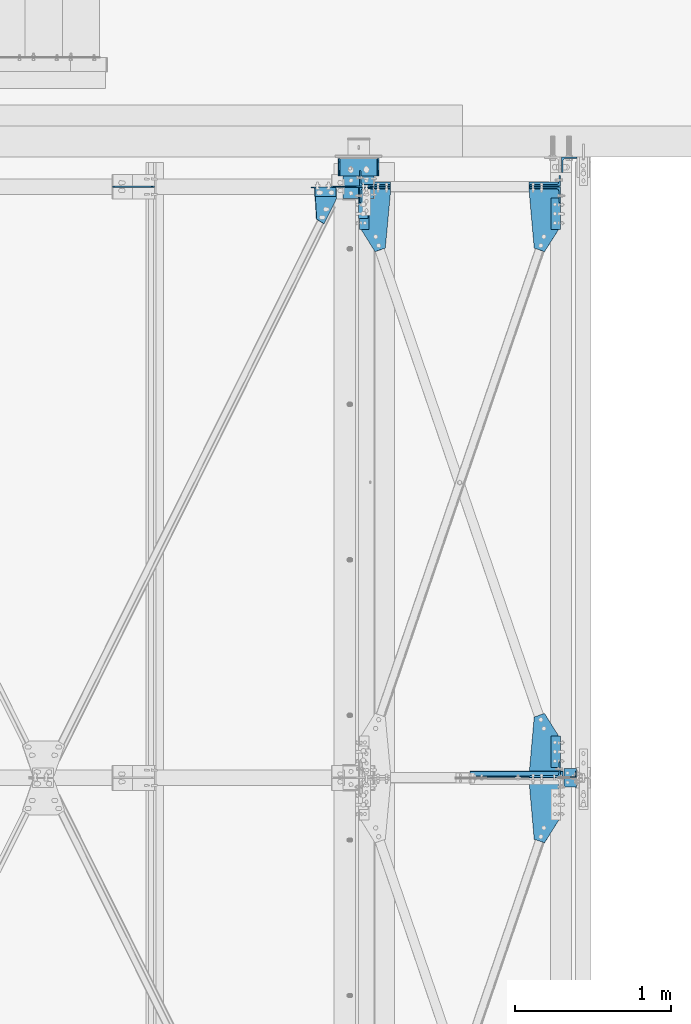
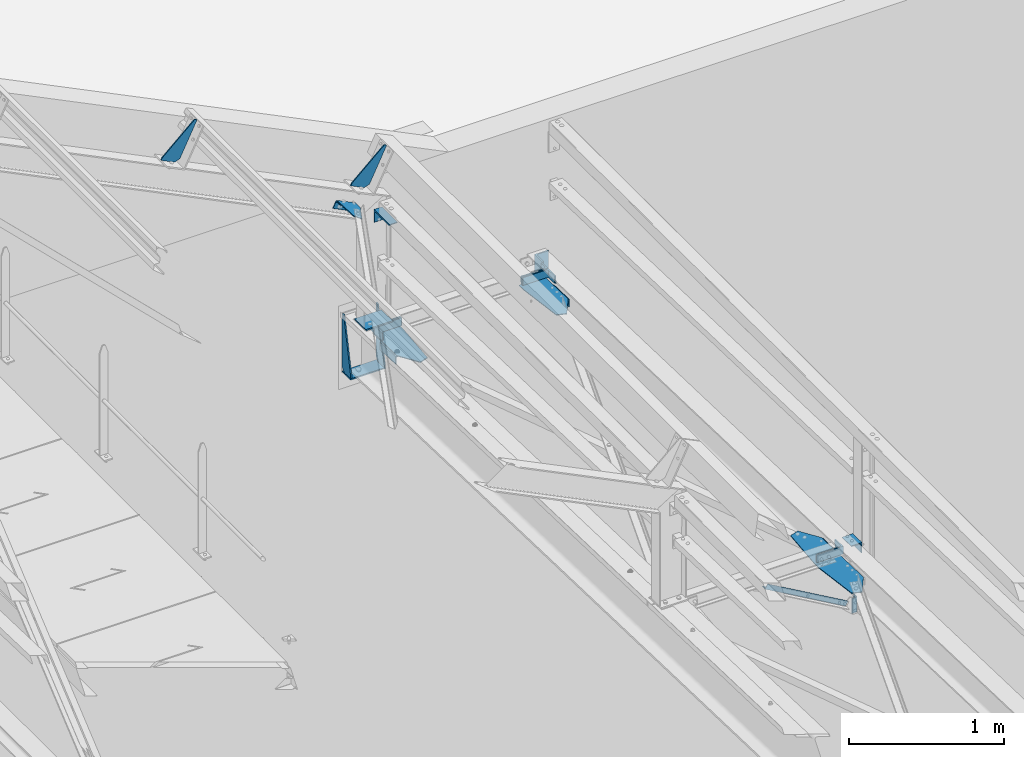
# One storey, part 113 of 362: 17 beams, 7 members, 22 elements without a shape of their own.
"""IFC2X3 building model written with IfcOpenShell, lengths in millimetres."""

from ifc_helpers import new_model, si_unit, frame, origin_with_axes, origin_2d_with_axis, place, context, subcontext, project, spatial, polyline, rectangle, l_section, outline, extrude, clip, halfspace, material, type_object, element, aggregate, save


model = new_model("IFC2X3")

# Units and contexts
model_context = context("Model", 3, precision=1e-05, world=origin_with_axes())
body_context = subcontext(model_context, "Body", "Model", "MODEL_VIEW")
ifc_project = project(units=[si_unit("LENGTHUNIT", "METRE", prefix="MILLI"), si_unit("AREAUNIT", "SQUARE_METRE"), si_unit("VOLUMEUNIT", "CUBIC_METRE"), si_unit("MASSUNIT", "GRAM", prefix="KILO"), si_unit("TIMEUNIT", "SECOND"), si_unit("PLANEANGLEUNIT", "RADIAN"), si_unit("SOLIDANGLEUNIT", "STERADIAN"), si_unit("THERMODYNAMICTEMPERATUREUNIT", "DEGREE_CELSIUS"), si_unit("LUMINOUSINTENSITYUNIT", "LUMEN")], contexts=[model_context])

# Site, building, storey
site_placement = place(None, origin_with_axes())
site = spatial("IfcSite", under=ifc_project, at=site_placement, Name="Undefined", CompositionType="ELEMENT")
building_placement = place(site_placement, origin_with_axes())
building = spatial("IfcBuilding", under=site, at=building_placement, Name="Undefined", CompositionType="ELEMENT")
storey_placement = place(building_placement, origin_with_axes())
storey = spatial("IfcBuildingStorey", under=building, at=storey_placement, Name="Undefined", CompositionType="ELEMENT", Elevation=0.0)

# Assembly, beam
assembly_1_placement = place(storey_placement, origin_with_axes())
assembly_1 = element("IfcElementAssembly", 1, at=assembly_1_placement, inside=storey, AssemblyPlace="NOTDEFINED", PredefinedType="NOTDEFINED")
ifc_material = material(Name="Undefined/S235-E24")
beam_type_1 = type_object("IfcBeamType", Name="L60*6", PredefinedType="NOTDEFINED")
beam_1_placement = place(assembly_1_placement, frame((39596.4999999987, 11466.9500236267, 7533.55960076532), z_axis=(-1.05403257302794e-09, -0.0314112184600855, -0.999506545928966), x_axis=(3.14103090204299e-11, 0.999506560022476, -0.0314107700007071)))
beam_1 = element("IfcBeam", 2, at=beam_1_placement, type_object=beam_type_1, material=ifc_material, Name="ATTACHE", ObjectType="L60*6", context=body_context, shape_type="SweptSolid", body=[
    extrude(l_section(Depth=60.0, Width=60.0, Thickness=6.0, FilletRadius=8.0, EdgeRadius=4.0, at=origin_2d_with_axis()), frame((200.0, 0.0, 0.0), z_axis=(-1.0, 0.0, 0.0), x_axis=(0.0, -1.0, 0.0)), (0.0, 0.0, 1.0), 200.0),
])
aggregate(assembly_1, [beam_1])

assembly_2_placement = place(storey_placement, origin_with_axes())
assembly_2 = element("IfcElementAssembly", 3, at=assembly_2_placement, inside=storey, AssemblyPlace="NOTDEFINED", PredefinedType="NOTDEFINED")
beam_2_placement = place(assembly_2_placement, frame((39596.4999999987, 14925.2331446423, 7424.8786388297), z_axis=(-1.05403257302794e-09, -0.0314112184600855, -0.999506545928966), x_axis=(3.14103090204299e-11, 0.999506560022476, -0.0314107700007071)))
beam_2 = element("IfcBeam", 4, at=beam_2_placement, type_object=beam_type_1, material=ifc_material, Name="ATTACHE", ObjectType="L60*6", context=body_context, shape_type="SweptSolid", body=[
    extrude(l_section(Depth=60.0, Width=60.0, Thickness=6.0, FilletRadius=8.0, EdgeRadius=4.0, at=origin_2d_with_axis()), frame((200.0, 0.0, 0.0), z_axis=(-1.0, 0.0, 0.0), x_axis=(0.0, -1.0, 0.0)), (0.0, 0.0, 1.0), 200.0),
])
aggregate(assembly_2, [beam_2])

assembly_3_placement = place(storey_placement, origin_with_axes())
assembly_3 = element("IfcElementAssembly", 5, at=assembly_3_placement, inside=storey, AssemblyPlace="NOTDEFINED", PredefinedType="NOTDEFINED")
beam_3_placement = place(assembly_3_placement, frame((38365.0000000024, 15125.1344555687, 7418.59645027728), z_axis=(-1.05403257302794e-09, -0.0314112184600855, -0.999506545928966), x_axis=(0.0, -0.999506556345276, 0.031410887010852)))
beam_3 = element("IfcBeam", 6, at=beam_3_placement, type_object=beam_type_1, material=ifc_material, Name="ATTACHE", ObjectType="L60*6", context=body_context, shape_type="SweptSolid", body=[
    extrude(l_section(Depth=60.0, Width=60.0, Thickness=6.0, FilletRadius=8.0, EdgeRadius=4.0, at=origin_2d_with_axis()), frame((200.0, 0.0, 0.0), z_axis=(-1.0, 0.0, 0.0), x_axis=(0.0, -1.0, 0.0)), (0.0, 0.0, 1.0), 200.0),
])
aggregate(assembly_3, [beam_3])

assembly_4_placement = place(storey_placement, origin_with_axes())
assembly_4 = element("IfcElementAssembly", 7, at=assembly_4_placement, inside=storey, Name="TRAVERSE SHED", AssemblyPlace="NOTDEFINED", PredefinedType="NOTDEFINED")
beam_type_2 = type_object("IfcBeamType", Name="PL10*200", PredefinedType="NOTDEFINED")
beam_4_placement = place(assembly_4_placement, frame((38330.0, 15274.8056218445, 7574.97237948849), z_axis=(-1.0, 0.0, 0.0), x_axis=(0.0, -0.999506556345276, 0.031410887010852)))
beam_4 = element("IfcBeam", 8, at=beam_4_placement, type_object=beam_type_2, material=ifc_material, Name="PLATINE", ObjectType="PL10*200", context=body_context, shape_type="SweptSolid", body=[
    extrude(rectangle(XDim=10.0, YDim=200.0, at=origin_2d_with_axis()), frame((150.0, 0.0, 0.0), z_axis=(-1.0, 0.0, 0.0), x_axis=(0.0, -1.0, 0.0)), (0.0, 0.0, 1.0), 150.0),
])
aggregate(assembly_4, [beam_4])

assembly_5_placement = place(storey_placement, origin_with_axes())
assembly_5 = element("IfcElementAssembly", 9, at=assembly_5_placement, inside=storey, AssemblyPlace="NOTDEFINED", PredefinedType="NOTDEFINED")
beam_type_3 = type_object("IfcBeamType", Name="L80*8", PredefinedType="NOTDEFINED")
beam_5_placement = place(assembly_5_placement, frame((39689.0, 11460.1274473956, 7639.62620400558), z_axis=(-1.0, 0.0, 0.0), x_axis=(0.0, -0.999506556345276, 0.031410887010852)))
beam_5 = element("IfcBeam", 10, at=beam_5_placement, type_object=beam_type_3, material=ifc_material, Name="ATTACHE", ObjectType="L80*8", context=body_context, shape_type="SweptSolid", body=[
    extrude(l_section(Depth=80.0, Width=80.0, Thickness=8.0, FilletRadius=10.0, EdgeRadius=5.0, at=origin_2d_with_axis()), frame((120.0, 0.0, 0.0), z_axis=(-1.0, 0.0, 0.0), x_axis=(0.0, -1.0, 0.0)), (0.0, 0.0, 1.0), 120.0),
])
aggregate(assembly_5, [beam_5])

assembly_6_placement = place(storey_placement, origin_with_axes())
assembly_6 = element("IfcElementAssembly", 11, at=assembly_6_placement, inside=storey, AssemblyPlace="NOTDEFINED", PredefinedType="NOTDEFINED")
beam_type_4 = type_object("IfcBeamType", Name="L40*4", PredefinedType="NOTDEFINED")
beam_6_placement = place(assembly_6_placement, frame((39709.0000003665, 11422.9999999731, 7220.00000925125), z_axis=(-1.0, 0.0, 0.0), x_axis=(0.0, 0.0, -1.0)))
beam_6 = element("IfcBeam", 12, at=beam_6_placement, type_object=beam_type_4, material=ifc_material, Name="ATTACHE", ObjectType="L40*4", context=body_context, shape_type="SweptSolid", body=[
    extrude(l_section(Depth=40.0, Width=40.0, Thickness=4.0, FilletRadius=6.0, EdgeRadius=3.0, at=origin_2d_with_axis()), frame((120.0, 0.0, 0.0), z_axis=(-1.0, 0.0, 0.0), x_axis=(0.0, -1.0, 0.0)), (0.0, 0.0, 1.0), 120.0),
])
aggregate(assembly_6, [beam_6])

# Assembly, member
assembly_7_placement = place(storey_placement, origin_with_axes())
assembly_7 = element("IfcElementAssembly", 13, at=assembly_7_placement, inside=storey, AssemblyPlace="NOTDEFINED", PredefinedType="NOTDEFINED")
member_type_1 = type_object("IfcMemberType", Name="L60*6", PredefinedType="NOTDEFINED")
member_1_placement = place(assembly_7_placement, frame((38035.9184902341, 15167.0004847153, 8592.20874332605), z_axis=(0.0, -1.0, 0.0), x_axis=(0.897398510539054, 0.0, -0.44122093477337)))
member_1 = element("IfcMember", 14, at=member_1_placement, type_object=member_type_1, material=ifc_material, Name="ATTACHE", ObjectType="L60*6", context=body_context, shape_type="SweptSolid", body=[
    extrude(l_section(Depth=60.0, Width=60.0, Thickness=6.0, FilletRadius=8.0, EdgeRadius=4.0, at=origin_2d_with_axis()), frame((150.0, 0.0, 0.0), z_axis=(-1.0, 0.0, 0.0), x_axis=(0.0, -1.0, 0.0)), (0.0, 0.0, 1.0), 150.0),
])
aggregate(assembly_7, [member_1])

# Assembly, beam
assembly_8_placement = place(storey_placement, origin_with_axes())
assembly_8 = element("IfcElementAssembly", 15, at=assembly_8_placement, inside=storey, Name="PANNE SHED", AssemblyPlace="NOTDEFINED", PredefinedType="NOTDEFINED")
beam_type_5 = type_object("IfcBeamType", Name="TOLE8*140", PredefinedType="NOTDEFINED")
beam_7_placement = place(assembly_8_placement, frame((38167.3881652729, 15200.0, 8712.54750741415), z_axis=(0.0, -1.0, 0.0), x_axis=(-0.441220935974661, 0.0, -0.89739850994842)))
beam_7 = element("IfcBeam", 16, at=beam_7_placement, type_object=beam_type_5, material=ifc_material, Name="RAIDISSEUR", ObjectType="TOLE8*140", context=body_context, shape_type="SweptSolid", body=[
    extrude(outline(polyline([(0.0, 0.0), (19.9999999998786, -3.63797880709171e-12), (20.0000000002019, 109.999999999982), (-9.99999999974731, 139.99998998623), (-300.0000000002, 139.999893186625), (-300.000000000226, 119.999893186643), (0.0, 0.0)])), frame((0.0, 0.0, -4.0), z_axis=(0.0, 0.0, 1.0), x_axis=(1.0, 0.0, 0.0)), (0.0, 0.0, 1.0), 8.0),
])
aggregate(assembly_8, [beam_7])

assembly_9_placement = place(storey_placement, origin_with_axes())
assembly_9 = element("IfcElementAssembly", 17, at=assembly_9_placement, inside=storey, Name="PANNE SHED", AssemblyPlace="NOTDEFINED", PredefinedType="NOTDEFINED")
beam_8_placement = place(assembly_9_placement, frame((36758.937741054, 15200.0, 9405.03563331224), z_axis=(0.0, -1.0, 0.0), x_axis=(-0.441220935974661, 0.0, -0.89739850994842)))
beam_8 = element("IfcBeam", 18, at=beam_8_placement, type_object=beam_type_5, material=ifc_material, Name="RAIDISSEUR", ObjectType="TOLE8*140", context=body_context, shape_type="SweptSolid", body=[
    extrude(outline(polyline([(0.0, 0.0), (19.9999999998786, -3.63797880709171e-12), (20.0000000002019, 109.999999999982), (-9.99999999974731, 139.99998998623), (-300.0000000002, 139.999893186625), (-300.000000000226, 119.999893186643), (0.0, 0.0)])), frame((0.0, 0.0, -4.0), z_axis=(0.0, 0.0, 1.0), x_axis=(1.0, 0.0, 0.0)), (0.0, 0.0, 1.0), 8.0),
])
aggregate(assembly_9, [beam_8])

# Assembly, member
assembly_10_placement = place(storey_placement, origin_with_axes())
assembly_10 = element("IfcElementAssembly", 19, at=assembly_10_placement, inside=storey, AssemblyPlace="NOTDEFINED", PredefinedType="NOTDEFINED")
member_type_2 = type_object("IfcMemberType", Name="L200*100*10", PredefinedType="NOTDEFINED")
member_2_placement = place(assembly_10_placement, frame((39526.5, 15253.6029386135, 7530.61641099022), z_axis=(-1.0, 0.0, 0.0), x_axis=(-1.05403257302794e-09, -0.0314112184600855, -0.999506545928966)))
member_2 = element("IfcMember", 20, at=member_2_placement, type_object=member_type_2, material=ifc_material, Name="ATTACHE", ObjectType="L200*100*10", context=body_context, shape_type="Clipping", body=[
    clip(extrude(l_section(Depth=200.0, Width=100.0, Thickness=10.0, FilletRadius=15.0, EdgeRadius=7.5, at=origin_2d_with_axis()), frame((60.0, 0.0, 0.0), z_axis=(-1.0, 0.0, 0.0), x_axis=(0.0, -1.0, 0.0)), (0.0, 0.0, 1.0), 60.0), halfspace(frame((1.72803993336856e-11, -19.9999999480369, -100.0), z_axis=(0.0, -1.0, 0.0), x_axis=(0.0, 0.0, 1.0)), False)),
])
aggregate(assembly_10, [member_2])

assembly_11_placement = place(storey_placement, origin_with_axes())
assembly_11 = element("IfcElementAssembly", 21, at=assembly_11_placement, inside=storey, AssemblyPlace="NOTDEFINED", PredefinedType="NOTDEFINED")
member_3_placement = place(assembly_11_placement, frame((39526.4999999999, 15145.7696877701, 7473.97567400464), z_axis=(-1.0, 0.0, 0.0), x_axis=(7.58071938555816e-11, 0.0314107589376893, 0.999506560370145)))
member_3 = element("IfcMember", 22, at=member_3_placement, type_object=member_type_2, material=ifc_material, Name="ATTACHE", ObjectType="L200*100*10", context=body_context, shape_type="SweptSolid", body=[
    extrude(l_section(Depth=200.0, Width=100.0, Thickness=10.0, FilletRadius=15.0, EdgeRadius=7.5, at=origin_2d_with_axis()), frame((60.0, 0.0, 0.0), z_axis=(-1.0, 0.0, 0.0), x_axis=(0.0, -1.0, 0.0)), (0.0, 0.0, 1.0), 60.0),
])
aggregate(assembly_11, [member_3])

assembly_12_placement = place(storey_placement, origin_with_axes())
assembly_12 = element("IfcElementAssembly", 23, at=assembly_12_placement, inside=storey, AssemblyPlace="NOTDEFINED", PredefinedType="NOTDEFINED")
member_4_placement = place(assembly_12_placement, frame((39526.5, 11453.6029378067, 7650.03622172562), z_axis=(-1.0, 0.0, 0.0), x_axis=(-1.05403257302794e-09, -0.0314112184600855, -0.999506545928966)))
member_4 = element("IfcMember", 24, at=member_4_placement, type_object=member_type_2, material=ifc_material, Name="ATTACHE", ObjectType="L200*100*10", context=body_context, shape_type="SweptSolid", body=[
    extrude(l_section(Depth=200.0, Width=100.0, Thickness=10.0, FilletRadius=15.0, EdgeRadius=7.5, at=origin_2d_with_axis()), frame((60.0, 0.0, 0.0), z_axis=(-1.0, 0.0, 0.0), x_axis=(0.0, -1.0, 0.0)), (0.0, 0.0, 1.0), 60.0),
])
aggregate(assembly_12, [member_4])

assembly_13_placement = place(storey_placement, origin_with_axes())
assembly_13 = element("IfcElementAssembly", 25, at=assembly_13_placement, inside=storey, AssemblyPlace="NOTDEFINED", PredefinedType="NOTDEFINED")
member_5_placement = place(assembly_13_placement, frame((38435.0, 15251.7182422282, 7470.64601896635), z_axis=(1.0, 0.0, 0.0), x_axis=(7.58071938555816e-11, 0.0314107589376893, 0.999506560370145)))
member_5 = element("IfcMember", 26, at=member_5_placement, type_object=member_type_2, material=ifc_material, Name="ATTACHE", ObjectType="L200*100*10", context=body_context, shape_type="SweptSolid", body=[
    extrude(l_section(Depth=200.0, Width=100.0, Thickness=10.0, FilletRadius=15.0, EdgeRadius=7.5, at=origin_2d_with_axis()), frame((60.0, 0.0, 0.0), z_axis=(-1.0, 0.0, 0.0), x_axis=(0.0, -1.0, 0.0)), (0.0, 0.0, 1.0), 60.0),
])
aggregate(assembly_13, [member_5])

assembly_14_placement = place(storey_placement, origin_with_axes())
assembly_14 = element("IfcElementAssembly", 27, at=assembly_14_placement, inside=storey, AssemblyPlace="NOTDEFINED", PredefinedType="NOTDEFINED")
member_6_placement = place(assembly_14_placement, frame((38435.0000000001, 15147.6543841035, 7533.94606602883), z_axis=(1.0, 0.0, 0.0), x_axis=(-1.05403257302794e-09, -0.0314112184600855, -0.999506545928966)))
member_6 = element("IfcMember", 28, at=member_6_placement, type_object=member_type_2, material=ifc_material, Name="ATTACHE", ObjectType="L200*100*10", context=body_context, shape_type="SweptSolid", body=[
    extrude(l_section(Depth=200.0, Width=100.0, Thickness=10.0, FilletRadius=15.0, EdgeRadius=7.5, at=origin_2d_with_axis()), frame((60.0, 0.0, 0.0), z_axis=(-1.0, 0.0, 0.0), x_axis=(0.0, -1.0, 0.0)), (0.0, 0.0, 1.0), 60.0),
])
aggregate(assembly_14, [member_6])

# Assembly, beam
assembly_15_placement = place(storey_placement, origin_with_axes())
assembly_15 = element("IfcElementAssembly", 29, at=assembly_15_placement, inside=storey, AssemblyPlace="NOTDEFINED", PredefinedType="NOTDEFINED")
beam_type_6 = type_object("IfcBeamType", Name="L200*100*10", PredefinedType="NOTDEFINED")
beam_9_placement = place(assembly_15_placement, frame((38330.0, 15096.5, 8400.0), z_axis=(0.0, -1.0, 0.0), x_axis=(1.0, 0.0, 0.0)))
beam_9 = element("IfcBeam", 30, at=beam_9_placement, type_object=beam_type_6, material=ifc_material, Name="ATTACHE", ObjectType="L200*100*10", context=body_context, shape_type="SweptSolid", body=[
    extrude(l_section(Depth=200.0, Width=100.0, Thickness=10.0, FilletRadius=15.0, EdgeRadius=7.5, at=origin_2d_with_axis()), frame((60.0, 0.0, 0.0), z_axis=(-1.0, 0.0, 0.0), x_axis=(0.0, -1.0, 0.0)), (0.0, 0.0, 1.0), 60.0),
])
aggregate(assembly_15, [beam_9])

assembly_16_placement = place(storey_placement, origin_with_axes())
assembly_16 = element("IfcElementAssembly", 31, at=assembly_16_placement, inside=storey, AssemblyPlace="NOTDEFINED", PredefinedType="NOTDEFINED")
beam_type_7 = type_object("IfcBeamType", Name="TOLE6*164", PredefinedType="NOTDEFINED")
beam_10_placement = place(assembly_16_placement, frame((38059.1846576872, 14990.7417709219, 8617.54258339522), z_axis=(0.44122107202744, 0.0, 0.89739844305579), x_axis=(0.784869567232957, -0.484835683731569, -0.385893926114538)))
beam_10 = element("IfcBeam", 32, at=beam_10_placement, type_object=beam_type_7, material=ifc_material, Name="GOUSSET", ObjectType="TOLE6*164", context=body_context, shape_type="SweptSolid", body=[
    extrude(outline(polyline([(0.0, 0.0), (60.0, 0.0), (60.000000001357, 181.13842773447), (27.5527534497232, 239.6707305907), (-103.638031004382, 166.945343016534), (-79.3962478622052, 123.215103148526), (0.0, 0.0)])), frame((0.0, 0.0, -3.0), z_axis=(0.0, 0.0, 1.0), x_axis=(1.0, 0.0, 0.0)), (0.0, 0.0, 1.0), 6.0),
])
aggregate(assembly_16, [beam_10])

assembly_17_placement = place(storey_placement, origin_with_axes())
assembly_17 = element("IfcElementAssembly", 33, at=assembly_17_placement, inside=storey, AssemblyPlace="NOTDEFINED", PredefinedType="NOTDEFINED")
beam_type_8 = type_object("IfcBeamType", Name="TOLE6*190", PredefinedType="NOTDEFINED")
beam_11_placement = place(assembly_17_placement, frame((39426.5000021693, 15166.0369146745, 7450.32736574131), z_axis=(7.58071938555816e-11, 0.0314107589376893, 0.999506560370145), x_axis=(0.088182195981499, -0.995612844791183, 0.0312883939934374)))
beam_11 = element("IfcBeam", 34, at=beam_11_placement, type_object=beam_type_8, material=ifc_material, Name="GOUSSET", ObjectType="TOLE6*190", context=body_context, shape_type="SweptSolid", body=[
    extrude(outline(polyline([(0.0, 0.0), (362.811950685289, 3.18686943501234e-09), (391.212585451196, 63.9797134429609), (255.705718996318, 168.106185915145), (-46.9960632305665, 194.903488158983), (-63.7506790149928, 5.6436605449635), (0.0, 0.0)])), frame((0.0, 0.0, -3.0), z_axis=(0.0, 0.0, 1.0), x_axis=(1.0, 0.0, 0.0)), (0.0, 0.0, 1.0), 6.0),
])
aggregate(assembly_17, [beam_11])

assembly_18_placement = place(storey_placement, origin_with_axes())
assembly_18 = element("IfcElementAssembly", 35, at=assembly_18_placement, inside=storey, AssemblyPlace="NOTDEFINED", PredefinedType="NOTDEFINED")
beam_12_placement = place(assembly_18_placement, frame((39616.4999999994, 11667.8878950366, 7560.26112725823), z_axis=(7.58071938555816e-11, 0.0314107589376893, 0.999506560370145), x_axis=(-0.532055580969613, 0.846291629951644, -0.0265957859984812)))
beam_12 = element("IfcBeam", 36, at=beam_12_placement, type_object=beam_type_8, material=ifc_material, Name="GOUSSET", ObjectType="TOLE6*190", context=body_context, shape_type="SweptSolid", body=[
    extrude(outline(polyline([(0.0, 0.0), (172.484863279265, 3.49245965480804e-10), (188.549133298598, 68.1317825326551), (-100.426284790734, 287.503997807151), (-154.615692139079, 321.555572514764), (-477.637298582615, 486.750213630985), (-532.054260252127, 442.71856690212), (-457.215545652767, 287.305267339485), (0.0, 0.0)])), frame((0.0, 0.0, -3.0), z_axis=(0.0, 0.0, 1.0), x_axis=(1.0, 0.0, 0.0)), (0.0, 0.0, 1.0), 6.0),
])
aggregate(assembly_18, [beam_12])

assembly_19_placement = place(storey_placement, origin_with_axes())
assembly_19 = element("IfcElementAssembly", 37, at=assembly_19_placement, inside=storey, AssemblyPlace="NOTDEFINED", PredefinedType="NOTDEFINED")
beam_13_placement = place(assembly_19_placement, frame((38535.0, 15166.0369146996, 7450.32736574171), z_axis=(7.58071938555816e-11, 0.0314107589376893, 0.999506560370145), x_axis=(3.14103090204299e-11, 0.999506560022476, -0.0314107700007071)))
beam_13 = element("IfcBeam", 38, at=beam_13_placement, type_object=beam_type_8, material=ifc_material, Name="GOUSSET", ObjectType="TOLE6*190", context=body_context, shape_type="SweptSolid", body=[
    extrude(outline(polyline([(0.0, 0.0), (63.9999999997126, 1.45519152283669e-11), (63.999999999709, 190.0), (-239.88557433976, 190.0), (-384.046691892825, 99.7284622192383), (-361.398559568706, 33.4935569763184), (0.0, 0.0)])), frame((0.0, 0.0, -3.0), z_axis=(0.0, 0.0, 1.0), x_axis=(1.0, 0.0, 0.0)), (0.0, 0.0, 1.0), 6.0),
])
aggregate(assembly_19, [beam_13])

assembly_20_placement = place(storey_placement, origin_with_axes())
assembly_20 = element("IfcElementAssembly", 39, at=assembly_20_placement, inside=storey, AssemblyPlace="NOTDEFINED", PredefinedType="NOTDEFINED")
beam_type_9 = type_object("IfcBeamType", Name="L100*10", PredefinedType="NOTDEFINED")
beam_14_placement = place(assembly_20_placement, frame((39684.9999999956, 15339.9999930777, 7523.32582689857), z_axis=(1.0, 0.0, 0.0), x_axis=(0.0, 0.0, -1.0)))
beam_14 = element("IfcBeam", 40, at=beam_14_placement, type_object=beam_type_9, material=ifc_material, Name="ATTACHE", ObjectType="L100*10", context=body_context, shape_type="SweptSolid", body=[
    extrude(l_section(Depth=100.0, Width=100.0, Thickness=10.0, FilletRadius=12.0, EdgeRadius=6.0, at=origin_2d_with_axis()), frame((180.0, 0.0, 0.0), z_axis=(-1.0, 0.0, 0.0), x_axis=(0.0, -1.0, 0.0)), (0.0, 0.0, 1.0), 180.0),
])
aggregate(assembly_20, [beam_14])

# Assembly, member
assembly_21_placement = place(storey_placement, origin_with_axes())
assembly_21 = element("IfcElementAssembly", 41, at=assembly_21_placement, inside=storey, AssemblyPlace="NOTDEFINED", PredefinedType="NOTDEFINED")
member_type_3 = type_object("IfcMemberType", Name="L40*4", PredefinedType="NOTDEFINED")
member_7_placement = place(assembly_21_placement, frame((39728.0037125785, 11423.0003840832, 7148.26582035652), z_axis=(0.49814372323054, 0.0, 0.867094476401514), x_axis=(-0.867094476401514, 0.0, 0.498143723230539)))
member_7 = element("IfcMember", 42, at=member_7_placement, type_object=member_type_3, material=ifc_material, Name="STABILITE", ObjectType="L40*4", context=body_context, shape_type="Clipping", body=[
    clip(clip(extrude(l_section(Depth=40.0, Width=40.0, Thickness=4.0, FilletRadius=6.0, EdgeRadius=3.0, at=origin_2d_with_axis()), frame((811.405783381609, 1.81898940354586e-12, 0.0), z_axis=(-1.0, 0.0, 0.0), x_axis=(0.0, -1.0, 0.0)), (0.0, 0.0, 1.0), 758.69), halfspace(frame((776.505219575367, 23.0003841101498, 20.0000002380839), z_axis=(-1.0, 0.0, 0.0), x_axis=(0.0, -1.0, 0.0)), True)), halfspace(frame((87.6210270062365, 23.0003841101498, 20.0000002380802), z_axis=(-1.0, 0.0, 0.0), x_axis=(0.0, -1.0, 0.0)), False)),
])
aggregate(assembly_21, [member_7])

# Assembly, beams
assembly_22_placement = place(storey_placement, origin_with_axes())
assembly_22 = element("IfcElementAssembly", 43, at=assembly_22_placement, inside=storey, AssemblyPlace="NOTDEFINED", PredefinedType="NOTDEFINED")
beam_type_10 = type_object("IfcBeamType", Name="PL10*110", PredefinedType="NOTDEFINED")
beam_15_placement = place(assembly_22_placement, frame((38205.000000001, 15270.0420944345, 7119.8974601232), z_axis=(-1.0, 0.0, 0.0), x_axis=(7.58071938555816e-11, 0.0314107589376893, 0.999506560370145)))
beam_15 = element("IfcBeam", 44, at=beam_15_placement, type_object=beam_type_10, material=ifc_material, Name="RAIDISSEUR", ObjectType="PL10*110", context=body_context, shape_type="SweptSolid", body=[
    extrude(outline(polyline([(0.0, 0.0), (19.9999999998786, -3.63797880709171e-12), (447.705322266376, 75.9325637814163), (448.333496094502, 95.9226913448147), (29.9851968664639, 109.069869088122), (3.83439057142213e-08, 80.0121917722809), (0.0, 0.0)])), frame((0.0, 0.0, -5.0), z_axis=(0.0, 0.0, 1.0), x_axis=(1.0, 0.0, 0.0)), (0.0, 0.0, 1.0), 10.0),
])
beam_16_placement = place(assembly_22_placement, frame((38454.9999999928, 15270.0420944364, 7119.89746012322), z_axis=(-1.0, 0.0, 0.0), x_axis=(7.58071938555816e-11, 0.0314107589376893, 0.999506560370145)))
beam_16 = element("IfcBeam", 45, at=beam_16_placement, type_object=beam_type_10, material=ifc_material, Name="RAIDISSEUR", ObjectType="PL10*110", context=body_context, shape_type="SweptSolid", body=[
    extrude(outline(polyline([(0.0, 0.0), (19.9999999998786, -3.63797880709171e-12), (447.705322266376, 75.9325637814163), (448.333496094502, 95.9226913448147), (29.9851968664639, 109.069869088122), (3.83439057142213e-08, 80.0121917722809), (0.0, 0.0)])), frame((0.0, 0.0, -5.0), z_axis=(0.0, 0.0, 1.0), x_axis=(1.0, 0.0, 0.0)), (0.0, 0.0, 1.0), 10.0),
])
beam_type_11 = type_object("IfcBeamType", Name="PL10*260", PredefinedType="NOTDEFINED")
beam_17_placement = place(assembly_22_placement, frame((38329.9999999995, 15379.8429460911, 7111.44434761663), z_axis=(-1.0, 0.0, 0.0), x_axis=(0.0, -0.999506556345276, 0.031410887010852)))
beam_17 = element("IfcBeam", 46, at=beam_17_placement, type_object=beam_type_11, material=ifc_material, Name="SABOT", ObjectType="PL10*260", context=body_context, shape_type="SweptSolid", body=[
    extrude(rectangle(XDim=10.0, YDim=260.0, at=origin_2d_with_axis()), frame((110.012190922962, 0.0, 0.0), z_axis=(-1.0, 0.0, 0.0), x_axis=(0.0, -1.0, 0.0)), (0.0, 0.0, 1.0), 110.01),
])
aggregate(assembly_22, [beam_15, beam_16, beam_17])

save(model, "model.ifc")
